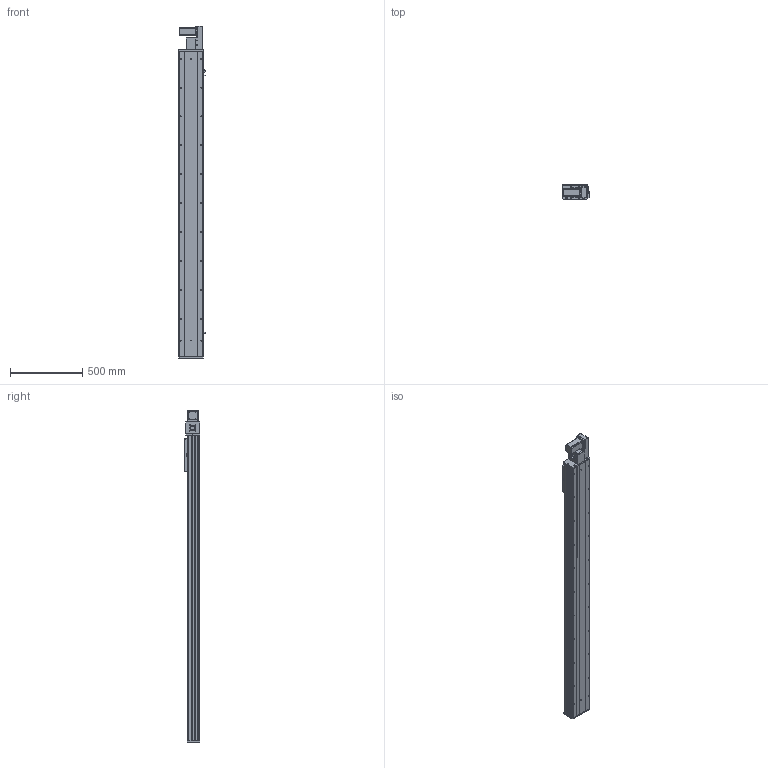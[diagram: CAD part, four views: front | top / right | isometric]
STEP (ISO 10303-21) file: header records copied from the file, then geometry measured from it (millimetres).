
FILE_DESCRIPTION (( 'STEP AP203' ), '1' );
FILE_NAME ('Y170CB-D105-S1800-BR-P400W.STEP', '2020-02-19T09:31:46', ( '微软用户' ), ( '微软中国' ), 'SwSTEP 2.0', 'SolidWorks 2017', '' );
FILE_SCHEMA (( 'CONFIG_CONTROL_DESIGN' ));
Length unit declared in the file: millimetre
Products named in the file (17): Y170CB-D105-S1800-BR-P400W; 70B喘謫眊----; B-源倛裔啣; 17B-耜蚾蟀諉啣----; Y170CB-陔俋离換覜結え---; 0B-萇儂楊擘啣; Y100-135俋离換覜ん--; san松下电机400不带刹车----; Y70俋欶BR----; 70CB-掛极-; --70CB --喘謫眊楊擘啣-; 70CB-耜裔啣-; 70C--詩湍揤踡え-; 70CB--耜裔; 70C-雄赽釱-奻-; 0C--雄赽釱俋欶-170; 70CB-詩湍--
Assembly tree (20 placements, depth 2):
  Y170CB-D105-S1800-BR-P400W
    70B喘謫眊----
    B-源倛裔啣
    17B-耜蚾蟀諉啣----
    0B-萇儂楊擘啣
    san松下电机400不带刹车----
    Y70俋欶BR----
    70CB-掛极-
    --70CB --喘謫眊楊擘啣-
    70CB-耜裔啣-  x2
    70C--詩湍揤踡え-  x2
    70CB--耜裔
    70C-雄赽釱-奻-
    0C--雄赽釱俋欶-170
    70CB-詩湍--
    Y100-135俋离換覜ん--  x3
    Y170CB-陔俋离換覜結え---
Bounding box: 183.5 x 107 x 2297 mm (x, y, z)
Volume: 9682266.1 mm3; surface area: 3480588.3 mm2
Topology: 20 solids, 20 shells, 1025 faces, 2753 edges, 1826 vertices
Faces by surface type: cylinder 539, plane 462, cone 24
Entity records: 32627 total; most frequent: CARTESIAN_POINT 6021, DIRECTION 5308, ORIENTED_EDGE 4988, EDGE_CURVE 2494, AXIS2_PLACEMENT_3D 1945, VERTEX_POINT 1656, VECTOR 1418, LINE 1418
